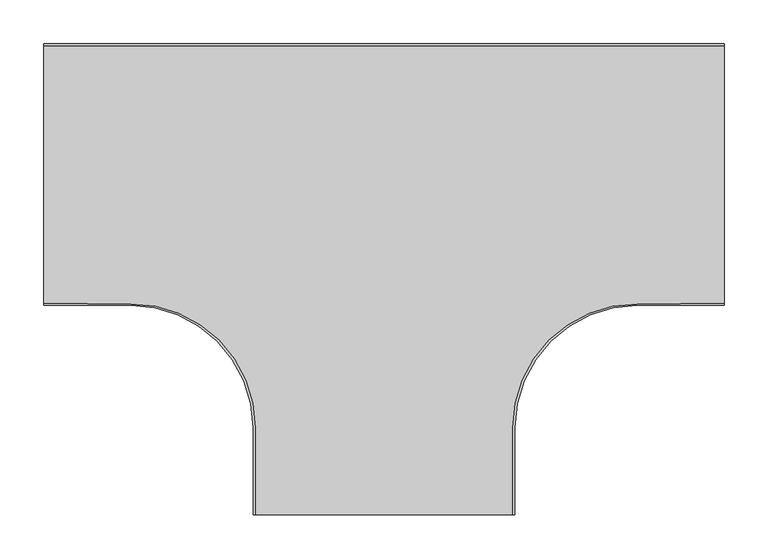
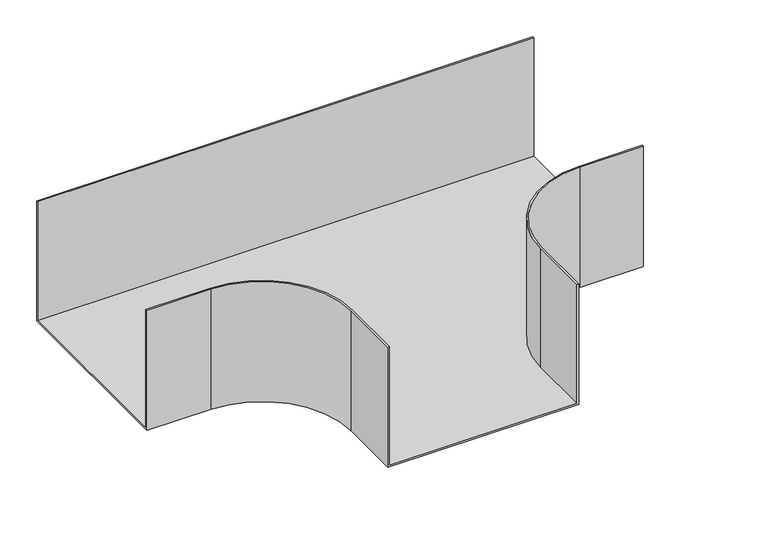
"""IFC4 building model written with IfcOpenShell, lengths in millimetres: cable carrier fitting geometry, BAKS_Tee_TKZ : TKZCH200."""

import ifcopenshell
import ifcopenshell.guid

model = None  # the IFC model being written
_history = None  # IfcOwnerHistory: only IFC2X3 demands one
_inside = {}  # id of a spatial element -> (the spatial element, [elements in it])
_under = {}  # id of a project, library or spatial element -> (it, [spatial elements below it])
_declared = {}  # id of a project -> (the project, [libraries it declares])
_typed = {}  # id of a type object -> (the type object, [elements of that type])
_made_of = {}  # id of a material, layer set ... -> (it, [elements and type objects made of it])


def new_model(schema):
    """Start an empty IFC model of exactly this schema.

    Asked for "IFC4X3", IfcOpenShell would pick the latest addendum, in which some entities
    have other attributes; the version numbers below select the first issue.
    IFC2X3 requires an IfcOwnerHistory on every rooted entity: one is made here for all.
    """
    global model, _history
    if schema == "IFC4X3":
        model = ifcopenshell.file(schema_version=(4, 3, 0, 0))
    else:
        model = ifcopenshell.file(schema=schema)
    _inside.clear()
    _under.clear()
    _declared.clear()
    _typed.clear()
    _made_of.clear()
    _history = None
    if model.schema == "IFC2X3":
        org = make("IfcOrganization", Name="unknown")
        user = make(
            "IfcPersonAndOrganization",
            ThePerson=make("IfcPerson", FamilyName="unknown"),
            TheOrganization=org,
        )
        app = make(
            "IfcApplication",
            ApplicationDeveloper=org,
            Version="unknown",
            ApplicationFullName="unknown",
            ApplicationIdentifier="unknown",
        )
        _history = make(
            "IfcOwnerHistory",
            OwningUser=user,
            OwningApplication=app,
            ChangeAction="ADDED",
            CreationDate=0,
        )
    return model


def make(cls, **values):
    """One entity of the class cls with the attributes given. An attribute that is None is left unset."""
    return model.create_entity(
        cls, **{name: value for name, value in values.items() if value is not None}
    )


def rooted(cls, **values):
    """An entity with a GlobalId (a new one), such as an element, a storey or a relation."""
    return make(cls, GlobalId=ifcopenshell.guid.new(), OwnerHistory=_history, **values)


def si_unit(unit_type, name, prefix=None):
    """IfcSIUnit, for example si_unit("LENGTHUNIT", "METRE", prefix="MILLI")."""
    return make("IfcSIUnit", UnitType=unit_type, Prefix=prefix, Name=name)


def assignment(units):
    """IfcUnitAssignment: the units of a project."""
    return None if units is None else make("IfcUnitAssignment", Units=units)


def point(xyz):
    """IfcCartesianPoint."""
    return None if xyz is None else make("IfcCartesianPoint", Coordinates=xyz)


def direction(xyz):
    """IfcDirection."""
    return None if xyz is None else make("IfcDirection", DirectionRatios=xyz)


def frame(location, z_axis=None, x_axis=None):
    """IfcAxis2Placement3D, a coordinate frame: its origin and axes. An axis left out is left unset."""
    return make(
        "IfcAxis2Placement3D",
        Location=point(location),
        Axis=direction(z_axis),
        RefDirection=direction(x_axis),
    )


def origin():
    """The frame at (0, 0, 0) with its axes left unset."""
    return frame((0.0, 0.0, 0.0))


def place(relative_to, where):
    """IfcLocalPlacement: puts the frame where relative to a parent placement (None: the world)."""
    return make(
        "IfcLocalPlacement", PlacementRelTo=relative_to, RelativePlacement=where
    )


def context(
    kind, dimensions, precision=None, world=None, true_north=None, identifier=None
):
    """IfcGeometricRepresentationContext, for example the 3D "Model" context."""
    return make(
        "IfcGeometricRepresentationContext",
        ContextIdentifier=identifier,
        ContextType=kind,
        CoordinateSpaceDimension=dimensions,
        Precision=precision,
        WorldCoordinateSystem=world,
        TrueNorth=true_north,
    )


def project(units=None, contexts=None):
    """IfcProject with its units and contexts."""
    return rooted(
        "IfcProject",
        Name="project",
        RepresentationContexts=contexts,
        UnitsInContext=assignment(units),
    )


def spatial(cls, under=None, at=None, **own):
    """A site, building, storey or space (cls), placed at a placement, below another one or the project."""
    s = rooted(cls, ObjectPlacement=at, **own)
    if under is not None:
        _under.setdefault(under.id(), (under, []))[1].append(s)
    return s


def polyline(points):
    """IfcPolyline through the points."""
    return make("IfcPolyline", Points=[point(p) for p in points])


def circle_curve(where, radius):
    """IfcCircle in the frame where."""
    return make("IfcCircle", Position=where, Radius=radius)


def shape(context_of_items, identifier, shape_type, items):
    """IfcShapeRepresentation: the items that make up one representation, for example the "Body"."""
    return make(
        "IfcShapeRepresentation",
        ContextOfItems=context_of_items,
        RepresentationIdentifier=identifier,
        RepresentationType=shape_type,
        Items=items,
    )


def source(mapping_origin, context_of_items, identifier, shape_type, items):
    """IfcRepresentationMap: a shape defined once, which mapped items show again and again."""
    return make(
        "IfcRepresentationMap",
        MappingOrigin=mapping_origin,
        MappedRepresentation=shape(context_of_items, identifier, shape_type, items),
    )


def transform(
    local_origin,
    x_axis=None,
    y_axis=None,
    z_axis=None,
    scale=None,
    scale2=None,
    scale3=None,
    uniform=True,
):
    """IfcCartesianTransformationOperator3D, or its non-uniform kind. x_axis, y_axis, z_axis: its Axis1, 2, 3."""
    if uniform:
        return make(
            "IfcCartesianTransformationOperator3D",
            Axis1=direction(x_axis),
            Axis2=direction(y_axis),
            LocalOrigin=point(local_origin),
            Scale=scale,
            Axis3=direction(z_axis),
        )
    return make(
        "IfcCartesianTransformationOperator3DnonUniform",
        Axis1=direction(x_axis),
        Axis2=direction(y_axis),
        LocalOrigin=point(local_origin),
        Scale=scale,
        Axis3=direction(z_axis),
        Scale2=scale2,
        Scale3=scale3,
    )


def mapped(mapping_source, mapping_target):
    """IfcMappedItem: shows the shape of a source again, moved by a transform."""
    return make(
        "IfcMappedItem", MappingSource=mapping_source, MappingTarget=mapping_target
    )


def made_of(thing, what):
    """Note that an element or type object is made of a material, layer set ...; save() writes the relation."""
    if what is not None:
        _made_of.setdefault(what.id(), (what, []))[1].append(thing)
    return thing


def element(
    cls,
    number,
    at=None,
    inside=None,
    cuts=None,
    type_object=None,
    material=None,
    context=None,
    identifier="Body",
    shape_type=None,
    held_by="IfcProductDefinitionShape",
    body=None,
    shapes=None,
    **own,
):
    """One element of the class cls, such as IfcWall. Its Tag is "e" and its number.

    at: its placement. inside: the storey or other place that contains it. cuts: it is an
    opening in that element (IfcRelVoidsElement). A single representation is given by context,
    identifier, shape_type and body (its items); several are given by shapes. held_by: the class
    of the entity that holds the representations. save() writes the other relations.
    """
    e = rooted(cls, Tag="e%d" % number, ObjectPlacement=at, **own)
    if body is not None:
        shapes = [shape(context, identifier, shape_type, body)]
    if shapes is not None:
        e.Representation = make(held_by, Representations=shapes)
    if inside is not None:
        _inside.setdefault(inside.id(), (inside, []))[1].append(e)
    if cuts is not None:
        rooted(
            "IfcRelVoidsElement", RelatingBuildingElement=cuts, RelatedOpeningElement=e
        )
    if type_object is not None:
        _typed.setdefault(type_object.id(), (type_object, []))[1].append(e)
    return made_of(e, material)


def aggregate(whole, parts):
    """IfcRelAggregates: a whole, such as a stair, and the parts it consists of."""
    return rooted("IfcRelAggregates", RelatingObject=whole, RelatedObjects=parts)


def save(model, path):
    """Write the relations noted so far, then the file.

    IfcRelAggregates (storeys below a building ...), IfcRelContainedInSpatialStructure (elements
    in a storey), IfcRelDefinesByType, IfcRelAssociatesMaterial and IfcRelDeclares: one each for
    every whole, place, type object, material and project.
    """
    for whole, parts in _under.values():
        aggregate(whole, parts)
    for where, things in _inside.values():
        rooted(
            "IfcRelContainedInSpatialStructure",
            RelatedElements=things,
            RelatingStructure=where,
        )
    for kind, things in _typed.values():
        rooted("IfcRelDefinesByType", RelatedObjects=things, RelatingType=kind)
    for what, things in _made_of.values():
        rooted("IfcRelAssociatesMaterial", RelatedObjects=things, RelatingMaterial=what)
    for by, libraries in _declared.values():
        rooted("IfcRelDeclares", RelatingContext=by, RelatedDefinitions=libraries)
    model.write(path)


def plane_surface(at):
    """IfcPlane: the flat surface through the origin of the frame at, square to its z axis."""
    return make("IfcPlane", Position=at)


def cylinder_surface(at, radius):
    """IfcCylindricalSurface: all points at the distance radius from the z axis of the frame at."""
    return make("IfcCylindricalSurface", Position=at, Radius=radius)


def revolved_surface(curve, axis_point, axis_direction):
    """IfcSurfaceOfRevolution: the curve turned about the line through axis_point along axis_direction."""
    return make(
        "IfcSurfaceOfRevolution",
        SweptCurve=make("IfcArbitraryOpenProfileDef", ProfileType="CURVE", Curve=curve),
        AxisPosition=make("IfcAxis1Placement", Location=point(axis_point), Axis=direction(axis_direction)),
    )


def advanced_brep(points, edges, surfaces, faces):
    """IfcAdvancedBrep: a solid bounded by faces that lie on surfaces and meet in shared edges.

    An edge is (start, end): straight between two places in points (the first is 0);
    or (start, end, curve); or (start, end, curve, False) where it runs against its curve.
    A face is (place in surfaces, loops), or (place, loops, False) where it looks against
    its surface's normal. A loop lists edges by number (the first is 1), with a minus sign
    where the edge is run from its end to its start. The first loop is the outer one.
    """
    corners = [point(p) for p in points]
    vertices = [make("IfcVertexPoint", VertexGeometry=c) for c in corners]
    made = []
    for start, end, *more in edges:
        made.append(
            make(
                "IfcEdgeCurve",
                EdgeStart=vertices[start],
                EdgeEnd=vertices[end],
                EdgeGeometry=more[0] if more else make("IfcPolyline", Points=[corners[start], corners[end]]),
                SameSense=more[1] if len(more) > 1 else True,
            )
        )
    hull = []
    for where, loops, *sense in faces:
        bounds = []
        for j, loop in enumerate(loops):
            ring = [make("IfcOrientedEdge", EdgeElement=made[abs(k) - 1], Orientation=k > 0) for k in loop]
            bounds.append(
                make(
                    "IfcFaceOuterBound" if j == 0 else "IfcFaceBound",
                    Bound=make("IfcEdgeLoop", EdgeList=ring),
                    Orientation=True,
                )
            )
        hull.append(make("IfcAdvancedFace", Bounds=bounds, FaceSurface=surfaces[where], SameSense=sense[0] if sense else True))
    return make("IfcAdvancedBrep", Outer=make("IfcClosedShell", CfsFaces=hull))


def cable_carrier_fitting_0d8af748(model_context):
    return source(origin(), model_context, "Body", "AdvancedBrep", [
        advanced_brep(
        [(-150.0, -290.0, 100.0), (-150.0, -390.0, 100.0), (-147.46, -390.0, 100.0), (-147.46, -290.0, 100.0), (-290.0, -148.503822, 100.0), (-390.0, -147.46, 100.0), (-390.0, -150.0, 100.0), (-290.0, -150.0, 100.0), (150.0, -290.0, 100.0), (290.0, -150.0, 100.0), (390.0, -150.0, 100.0), (390.0, -147.46, 100.0), (290.0, -148.503822, 100.0), (147.46, -290.0, 100.0), (147.46, -390.0, 100.0), (150.0, -390.0, 100.0), (390.0, 150.0, 100.0), (-390.0, 150.0, 100.0), (-390.0, 147.46, 100.0), (390.0, 147.46, 100.0), (-150.0, -290.0, -100.0), (-290.0, -150.0, -100.0), (-390.0, -150.0, -100.0), (-390.0, 150.0, -100.0), (390.0, 150.0, -100.0), (390.0, -150.0, -100.0), (290.0, -150.0, -100.0), (150.0, -290.0, -100.0), (150.0, -390.0, -100.0), (-150.0, -390.0, -100.0), (-150.0, -290.0, -97.46), (147.46, -390.0, -97.46), (-147.46, -390.0, -97.46), (-147.46, -290.0, -97.46), (-290.0, -148.503822, -97.46), (-390.0, -147.46, -97.46), (-390.0, 147.46, -97.46), (-290.0, -150.0, -97.46), (150.0, -290.0, -97.46), (290.0, -150.0, -97.46), (390.0, 147.46, -97.46), (390.0, -147.46, -97.46), (290.0, -148.503822, -97.46), (147.46, -290.0, -97.46)],
        [
            (0, 1),
            (1, 2),
            (2, 3),
            (3, 4, circle_curve(frame((-288.96, -290.0, 100.0), z_axis=(0.0, 0.0, 1.0), x_axis=(1.0, 0.0, 0.0)), 141.5)),
            (4, 5),
            (5, 6),
            (6, 7),
            (7, 0, circle_curve(frame((-290.0, -290.0, 100.0), z_axis=(0.0, 0.0, -1.0), x_axis=(1.0, 0.0, 0.0)), 140.0)),
            (8, 9, circle_curve(frame((290.0, -290.0, 100.0), z_axis=(0.0, 0.0, -1.0), x_axis=(1.0, 0.0, 0.0)), 140.0)),
            (9, 10),
            (10, 11),
            (11, 12),
            (12, 13, circle_curve(frame((288.96, -290.0, 100.0), z_axis=(0.0, 0.0, 1.0), x_axis=(1.0, 0.0, 0.0)), 141.5)),
            (13, 14),
            (14, 15),
            (15, 8),
            (16, 17),
            (17, 18),
            (18, 19),
            (19, 16),
            (20, 21, circle_curve(frame((-290.0, -290.0, -100.0), z_axis=(0.0, 0.0, 1.0), x_axis=(1.0, 0.0, 0.0)), 140.0)),
            (21, 22),
            (22, 23),
            (23, 24),
            (24, 25),
            (25, 26),
            (26, 27, circle_curve(frame((290.0, -290.0, -100.0), z_axis=(0.0, 0.0, 1.0), x_axis=(1.0, 0.0, 0.0)), 140.0)),
            (27, 28),
            (28, 29),
            (29, 20),
            (29, 1),
            (0, 30),
            (30, 20),
            (28, 15),
            (14, 31),
            (31, 32),
            (32, 2),
            (32, 33),
            (33, 3),
            (33, 34, circle_curve(frame((-288.96, -290.0, -97.46), z_axis=(0.0, 0.0, 1.0), x_axis=(1.0, 0.0, 0.0)), 141.5)),
            (34, 4),
            (34, 35),
            (35, 5),
            (35, 36),
            (36, 18),
            (17, 23),
            (22, 6),
            (21, 37),
            (37, 7),
            (8, 38),
            (38, 27),
            (26, 39),
            (39, 9),
            (25, 10),
            (24, 16),
            (19, 40),
            (40, 41),
            (41, 11),
            (41, 42),
            (42, 12),
            (42, 43, circle_curve(frame((288.96, -290.0, -97.46), z_axis=(0.0, 0.0, 1.0), x_axis=(1.0, 0.0, 0.0)), 141.5)),
            (43, 13),
            (43, 31),
            (36, 40),
        ],
        [
            plane_surface(frame((-150.0, -290.0, 100.0), z_axis=(0.0, 0.0, 1.0), x_axis=(0.0, -1.0, 0.0))),
            plane_surface(frame((-150.0, -290.0, -100.0), z_axis=(0.0, 0.0, -1.0), x_axis=(0.0, 1.0, 0.0))),
            plane_surface(frame((-150.0, -290.0, 100.0), z_axis=(-1.0, 0.0, 0.0), x_axis=(0.0, 0.0, -1.0))),
            plane_surface(frame((-150.0, -390.0, 100.0), z_axis=(0.0, -1.0, 0.0), x_axis=(0.0, 0.0, -1.0))),
            plane_surface(frame((-147.46, -390.0, 100.0), z_axis=(1.0, 0.0, 0.0), x_axis=(0.0, 0.0, -1.0))),
            cylinder_surface(frame((-288.96, -290.0, -100.0), z_axis=(0.0, 0.0, 1.0), x_axis=(1.0, 0.0, 0.0)), 141.5),
            plane_surface(frame((-290.0, -148.503822, 100.0), z_axis=(0.01043765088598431, 0.9999455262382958, 0.0), x_axis=(0.0, 0.0, -1.0))),
            plane_surface(frame((-390.0, -147.46, 100.0), z_axis=(-1.0, 0.0, 0.0), x_axis=(0.0, 0.0, -1.0))),
            plane_surface(frame((-390.0, -150.0, 100.0), z_axis=(0.0, -1.0, 0.0), x_axis=(0.0, 0.0, -1.0))),
            revolved_surface(polyline([(-150.0, -290.0, -100.0), (-150.0, -290.0, 100.0)]), (-290.0, -290.0, -100.0), (0.0, 0.0, -1.0)),
            revolved_surface(polyline([(430.0, -290.0, -100.0), (430.0, -290.0, 100.0)]), (290.0, -290.0, 0.0), (0.0, 0.0, -1.0)),
            plane_surface(frame((290.0, -150.0, 100.0), z_axis=(0.0, -1.0, 0.0), x_axis=(0.0, 0.0, -1.0))),
            plane_surface(frame((390.0, -150.0, 100.0), z_axis=(1.0, 0.0, 0.0), x_axis=(0.0, 0.0, -1.0))),
            plane_surface(frame((390.0, -147.46, 100.0), z_axis=(-0.010437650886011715, 0.9999455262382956, 0.0), x_axis=(0.0, 0.0, -1.0))),
            cylinder_surface(frame((288.96, -290.0, 0.0), z_axis=(0.0, 0.0, 1.0), x_axis=(1.0, 0.0, 0.0)), 141.5),
            plane_surface(frame((147.46, -290.0, 100.0), z_axis=(-1.0, 0.0, 0.0), x_axis=(0.0, 0.0, -1.0))),
            plane_surface(frame((150.0, -390.0, 100.0), z_axis=(1.0, 0.0, 0.0), x_axis=(0.0, 0.0, -1.0))),
            plane_surface(frame((390.0, 150.0, 100.0), z_axis=(0.0, 1.0, 0.0), x_axis=(0.0, 0.0, -1.0))),
            plane_surface(frame((-390.0, 147.46, 100.0), z_axis=(0.0, -1.0, 0.0), x_axis=(0.0, 0.0, -1.0))),
            plane_surface(frame((-150.0, -290.0, -97.46), z_axis=(0.0, 0.0, 1.0), x_axis=(0.0, -1.0, 0.0))),
        ],
        [
            (0, [[1, 2, 3, 4, 5, 6, 7, 8]]),
            (0, [[9, 10, 11, 12, 13, 14, 15, 16]]),
            (0, [[17, 18, 19, 20]]),
            (1, [[21, 22, 23, 24, 25, 26, 27, 28, 29, 30]]),
            (2, [[31, -1, 32, 33, -30]]),
            (3, [[-2, -31, -29, 34, -15, 35, 36, 37]]),
            (4, [[-3, -37, 38, 39]]),
            (5, [[-4, -39, 40, 41]]),
            (6, [[-5, -41, 42, 43]]),
            (7, [[-6, -43, 44, 45, -18, 46, -23, 47]]),
            (8, [[-7, -47, -22, 48, 49]]),
            (9, [[-8, -49, -48, -21, -33, -32]]),
            (10, [[-9, 50, 51, -27, 52, 53]]),
            (11, [[54, -10, -53, -52, -26]]),
            (12, [[-11, -54, -25, 55, -20, 56, 57, 58]]),
            (13, [[-12, -58, 59, 60]]),
            (14, [[-13, -60, 61, 62]]),
            (15, [[-14, -62, 63, -35]]),
            (16, [[-16, -34, -28, -51, -50]]),
            (17, [[-46, -17, -55, -24]]),
            (18, [[-19, -45, 64, -56]]),
            (19, [[-36, -63, -61, -59, -57, -64, -44, -42, -40, -38]]),
        ],
    ),
    ])


if __name__ == "__main__":
    model = new_model("IFC4")
    model_context = context("Model", 3, world=origin())
    ifc_project = project(units=[si_unit("LENGTHUNIT", "METRE", prefix="MILLI")], contexts=[model_context])
    site = spatial("IfcSite", under=ifc_project)
    building = spatial("IfcBuilding", under=site)
    placement = place(None, origin())
    cable_carrier_fitting_shape = cable_carrier_fitting_0d8af748(model_context)
    element("IfcCableCarrierFitting", 1, ObjectType="BAKS_Tee_TKZ : TKZCH200", at=placement, inside=building, context=model_context, shape_type="MappedRepresentation", body=[
        mapped(cable_carrier_fitting_shape, transform((0.0, 0.0, 0.0), x_axis=(1.0, 0.0, 0.0), y_axis=(0.0, 1.0, 0.0), z_axis=(0.0, 0.0, 1.0))),
    ])
    save(model, "model.ifc")
